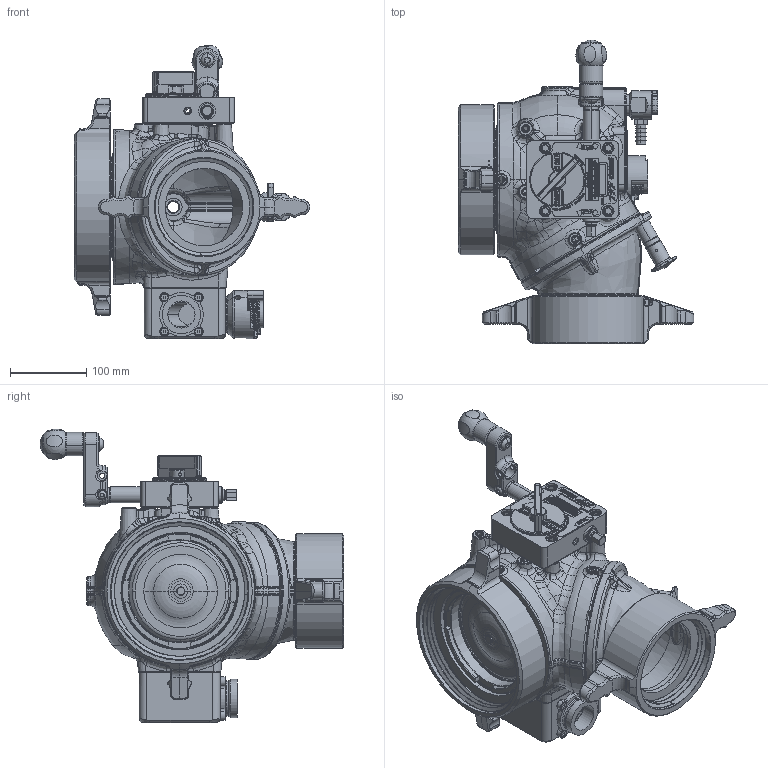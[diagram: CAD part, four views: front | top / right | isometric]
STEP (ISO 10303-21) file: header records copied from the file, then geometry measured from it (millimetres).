
FILE_DESCRIPTION (( 'STEP AP214' ), '1' );
FILE_NAME ('AXD_ASSEMBLY.SLDASM_AXD7HNP-NX-T.step', '2014-09-12T20:56:25', ( '' ), ( '' ), 'SwSTEP 2.0', 'SolidWorks 2014', '' );
FILE_SCHEMA (( 'AUTOMOTIVE_DESIGN' ));
Length unit declared in the file: inch
Products named in the file (1): AXD_ASSEMBLY.SLDASM_AXD7HNP-NX-T
Bounding box: 308.48 x 397.69 x 384.51 mm (x, y, z)
Surface area: 624733.9 mm2 (no closed solid volume)
Topology: 0 solids, 307 shells, 2607 faces, 17057 edges, 14587 vertices
Faces by surface type: plane 925, cylinder 579, bspline 451, cone 389, torus 241, sphere 22
Entity records: 265824 total; most frequent: CARTESIAN_POINT 116341, ORIENTED_EDGE 22029, DIRECTION 18985, EDGE_CURVE 17046, VERTEX_POINT 14585, LINE 9591, VECTOR 9591, AXIS2_PLACEMENT_3D 4697
